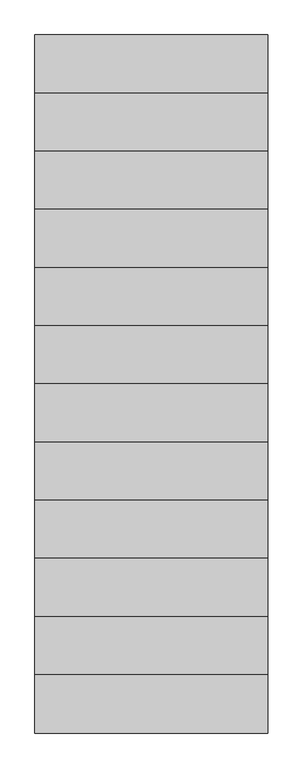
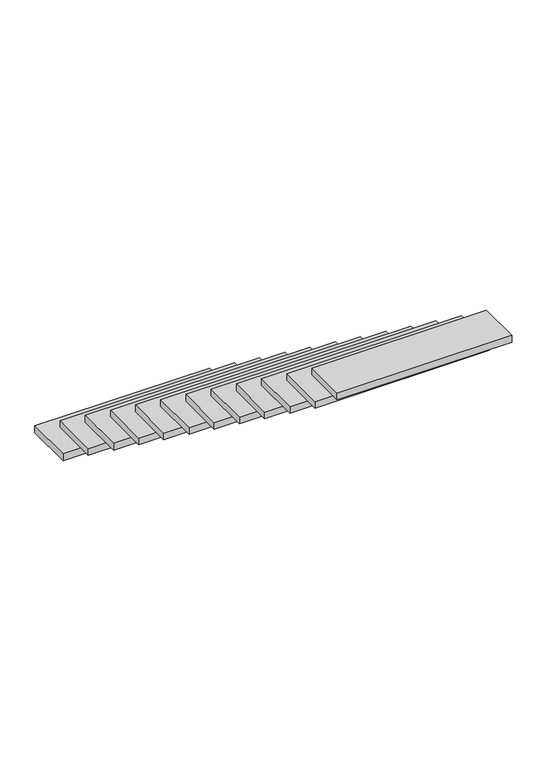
"""IFC4 building model written with IfcOpenShell, lengths in millimetres: stair flight geometry, Holz_40 mm Auftritt."""

from ifc_helpers import new_model, si_unit, frame, origin, place, context, project, spatial, polyline, outline, extrude, source, transform, mapped, element, save


def stair_flight_0ae1a87a(model_context):
    return source(origin(), model_context, "Body", "SweptSolid", [
        extrude(outline(polyline([(1980.0, 4210.0), (980.0, 4210.0), (980.0, 4490.0), (1980.0, 4490.0), (1980.0, 4210.0)])), frame((0.0, 0.0, -1056.6666667), z_axis=(0.0, 0.0, 1.0), x_axis=(1.0, 0.0, 0.0)), (0.0, 0.0, 1.0), 40.0),
        extrude(outline(polyline([(1980.0, 3960.0), (980.0, 3960.0), (980.0, 4240.0), (1980.0, 4240.0), (1980.0, 3960.0)])), frame((0.0, 0.0, -873.3333333), z_axis=(0.0, 0.0, 1.0), x_axis=(1.0, 0.0, 0.0)), (0.0, 0.0, 1.0), 40.0),
        extrude(outline(polyline([(1980.0, 3710.0), (980.0, 3710.0), (980.0, 3990.0), (1980.0, 3990.0), (1980.0, 3710.0)])), frame((0.0, 0.0, -690.0), z_axis=(0.0, 0.0, 1.0), x_axis=(1.0, 0.0, 0.0)), (0.0, 0.0, 1.0), 40.0),
        extrude(outline(polyline([(1980.0, 3460.0), (980.0, 3460.0), (980.0, 3740.0), (1980.0, 3740.0), (1980.0, 3460.0)])), frame((0.0, 0.0, -506.6666667), z_axis=(0.0, 0.0, 1.0), x_axis=(1.0, 0.0, 0.0)), (0.0, 0.0, 1.0), 40.0),
        extrude(outline(polyline([(1980.0, 3210.0), (980.0, 3210.0), (980.0, 3490.0), (1980.0, 3490.0), (1980.0, 3210.0)])), frame((0.0, 0.0, -323.3333333), z_axis=(0.0, 0.0, 1.0), x_axis=(1.0, 0.0, 0.0)), (0.0, 0.0, 1.0), 40.0),
        extrude(outline(polyline([(1980.0, 2960.0), (980.0, 2960.0), (980.0, 3240.0), (1980.0, 3240.0), (1980.0, 2960.0)])), frame((0.0, 0.0, -140.0), z_axis=(0.0, 0.0, 1.0), x_axis=(1.0, 0.0, 0.0)), (0.0, 0.0, 1.0), 40.0),
        extrude(outline(polyline([(1980.0, 2710.0), (980.0, 2710.0), (980.0, 2990.0), (1980.0, 2990.0), (1980.0, 2710.0)])), frame((0.0, 0.0, 43.3333333), z_axis=(0.0, 0.0, 1.0), x_axis=(1.0, 0.0, 0.0)), (0.0, 0.0, 1.0), 40.0),
        extrude(outline(polyline([(1980.0, 2460.0), (980.0, 2460.0), (980.0, 2740.0), (1980.0, 2740.0), (1980.0, 2460.0)])), frame((0.0, 0.0, 226.6666667), z_axis=(0.0, 0.0, 1.0), x_axis=(1.0, 0.0, 0.0)), (0.0, 0.0, 1.0), 40.0),
        extrude(outline(polyline([(1980.0, 2210.0), (980.0, 2210.0), (980.0, 2490.0), (1980.0, 2490.0), (1980.0, 2210.0)])), frame((0.0, 0.0, 410.0), z_axis=(0.0, 0.0, 1.0), x_axis=(1.0, 0.0, 0.0)), (0.0, 0.0, 1.0), 40.0),
        extrude(outline(polyline([(1980.0, 1960.0), (980.0, 1960.0), (980.0, 2240.0), (1980.0, 2240.0), (1980.0, 1960.0)])), frame((0.0, 0.0, 593.3333333), z_axis=(0.0, 0.0, 1.0), x_axis=(1.0, 0.0, 0.0)), (0.0, 0.0, 1.0), 40.0),
        extrude(outline(polyline([(1980.0, 1710.0), (980.0, 1710.0), (980.0, 1990.0), (1980.0, 1990.0), (1980.0, 1710.0)])), frame((0.0, 0.0, 776.6666667), z_axis=(0.0, 0.0, 1.0), x_axis=(1.0, 0.0, 0.0)), (0.0, 0.0, 1.0), 40.0),
        extrude(outline(polyline([(1980.0, 1490.0), (980.0, 1490.0), (980.0, 1740.0), (1980.0, 1740.0), (1980.0, 1490.0)])), frame((0.0, 0.0, 960.0), z_axis=(0.0, 0.0, 1.0), x_axis=(1.0, 0.0, 0.0)), (0.0, 0.0, 1.0), 40.0),
    ])


if __name__ == "__main__":
    model = new_model("IFC4")
    model_context = context("Model", 3, world=origin())
    ifc_project = project(units=[si_unit("LENGTHUNIT", "METRE", prefix="MILLI")], contexts=[model_context])
    site = spatial("IfcSite", under=ifc_project)
    building = spatial("IfcBuilding", under=site)
    placement = place(None, origin())
    stair_flight_shape = stair_flight_0ae1a87a(model_context)
    element("IfcStairFlight", 1, ObjectType="Holz_40 mm Auftritt", at=placement, inside=building, context=model_context, shape_type="MappedRepresentation", body=[
        mapped(stair_flight_shape, transform((0.0, 0.0, 0.0), x_axis=(1.0, 0.0, 0.0), y_axis=(0.0, 1.0, 0.0), z_axis=(0.0, 0.0, 1.0))),
    ])
    save(model, "model.ifc")
